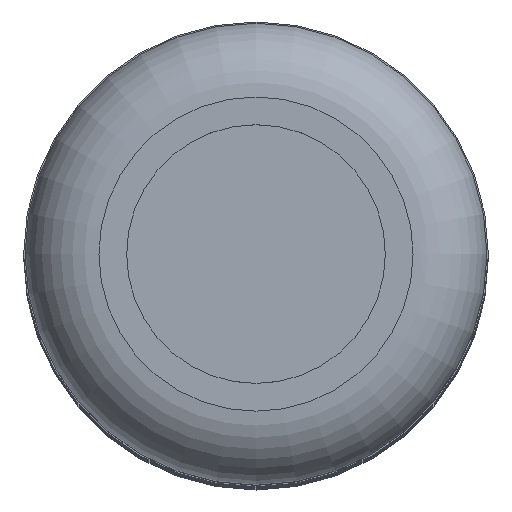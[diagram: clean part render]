
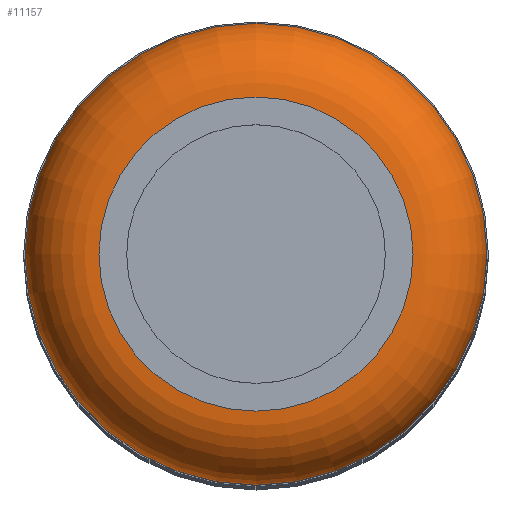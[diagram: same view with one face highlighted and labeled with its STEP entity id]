
A CAD part, top view. The second image highlights one B-rep face of the part: STEP entity #11157.
In plain terms, the highlighted toroidal (fillet/blend) face has major radius 17 mm and minor radius 8 mm.
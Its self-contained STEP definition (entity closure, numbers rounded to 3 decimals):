
#34=TOROIDAL_SURFACE('',#39908,17.,8.);
#11157=ADVANCED_FACE('',(#13889,#13890),#34,.T.);
#13889=FACE_BOUND('',#14108,.T.);
#13890=FACE_BOUND('',#14109,.T.);
#14108=EDGE_LOOP('',(#16328));
#14109=EDGE_LOOP('',(#16329));
#16328=ORIENTED_EDGE('',*,*,#32052,.F.);
#16329=ORIENTED_EDGE('',*,*,#32053,.F.);
#28082=VERTEX_POINT('',#58578);
#28083=VERTEX_POINT('',#58580);
#32052=EDGE_CURVE('',#28082,#28082,#37926,.T.);
#32053=EDGE_CURVE('',#28083,#28083,#37927,.T.);
#37926=CIRCLE('',#39906,25.);
#37927=CIRCLE('',#39907,17.);
#39906=AXIS2_PLACEMENT_3D('',#58577,#43904,#43905);
#39907=AXIS2_PLACEMENT_3D('',#58579,#43906,#43907);
#39908=AXIS2_PLACEMENT_3D('',#58581,#43908,#43909);
#43904=DIRECTION('',(0.,0.,-1.));
#43905=DIRECTION('',(1.,0.,0.));
#43906=DIRECTION('',(0.,0.,1.));
#43907=DIRECTION('',(1.,0.,0.));
#43908=DIRECTION('',(0.,0.,1.));
#43909=DIRECTION('',(1.,0.,0.));
#58577=CARTESIAN_POINT('',(0.,200.,248.5));
#58578=CARTESIAN_POINT('',(25.,200.,248.5));
#58579=CARTESIAN_POINT('',(0.,200.,256.5));
#58580=CARTESIAN_POINT('',(17.,200.,256.5));
#58581=CARTESIAN_POINT('',(0.,200.,248.5));
